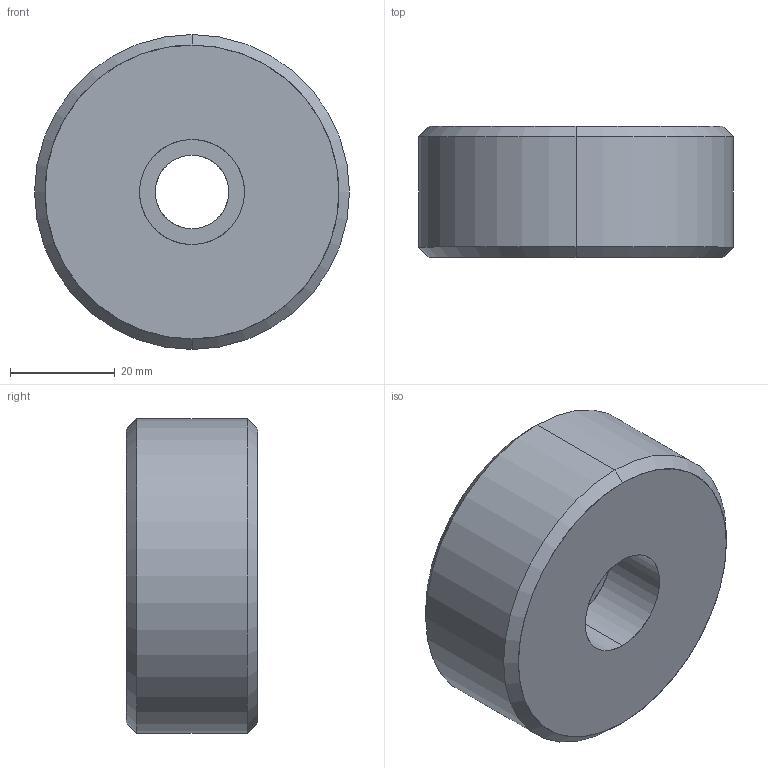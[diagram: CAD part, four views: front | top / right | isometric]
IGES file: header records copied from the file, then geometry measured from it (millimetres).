
Start section: START RECORD GO HERE.
Global section: file name: 758+60+25+12.igs; native system: DASSAULT SYSTEMES CATIA V5 R20 - www.3ds.com; preprocessor: CATIA Version 5 Release 20 ; author: Utente; organization: NB04-ASUS; date: 20201028.202843; units: millimetre
Bounding box: 60 x 25 x 60 mm (x, y, z)
Surface area: 10951.9 mm2 (no closed solid volume)
Topology: 0 solids, 0 shells, 13 faces, 52 edges, 52 vertices
Faces by surface type: revolution 10, plane 3
